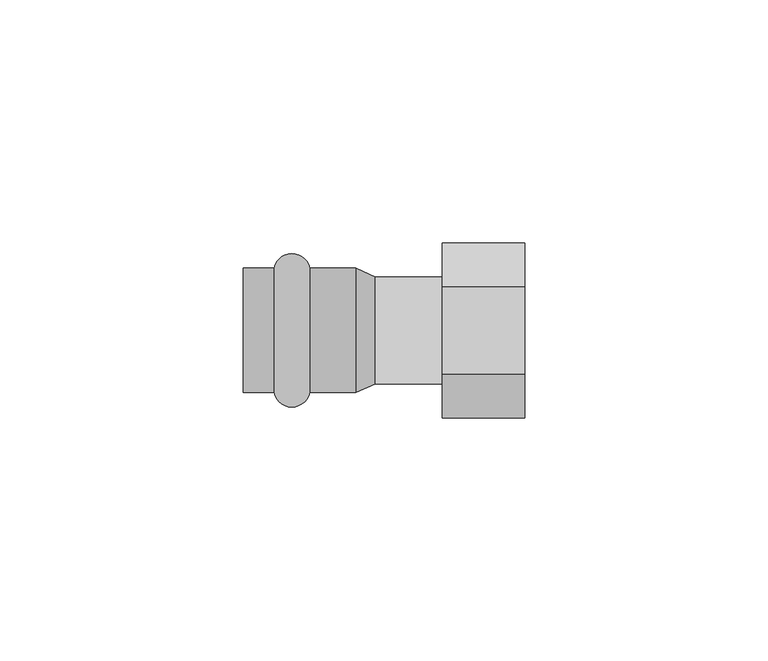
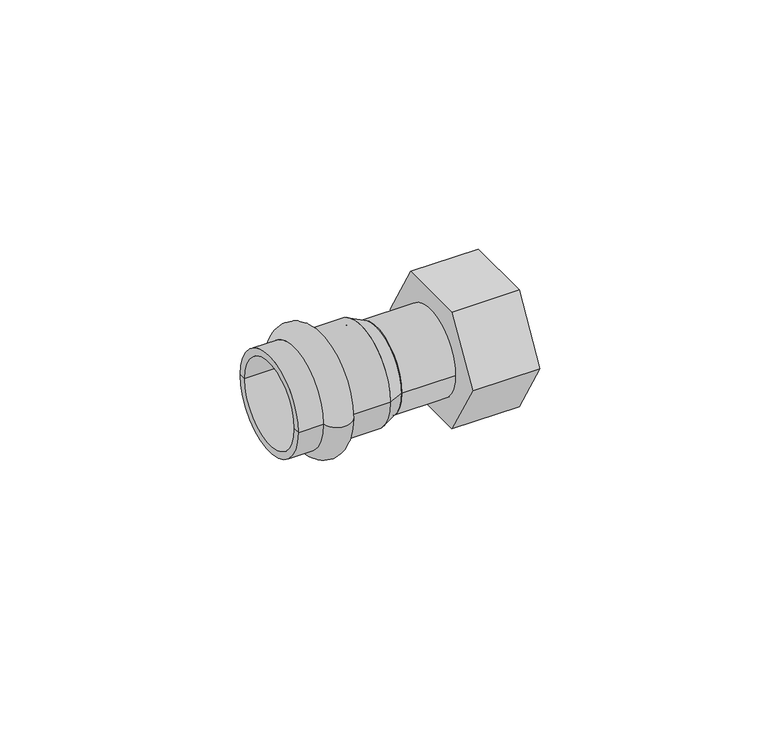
"""IFC4 building model written with IfcOpenShell, lengths in millimetres: pipe fitting geometry, VALTEC_VTi.908.I_Соединитель с накидной гайкой_Нержавеющая сталь : VTi.908.I."""

from ifc_helpers import new_model, si_unit, point, frame, origin, origin_2d, place, context, project, spatial, polyline, circle_curve, ellipse_curve, trimmed, segment, composite_curve, outline, extrude, source, transform, mapped, element, save
from ifc_brep_helpers import plane_surface, cylinder_surface, revolved_surface, advanced_brep


def pipe_fitting_6fb5fd90(model_context):
    return source(origin(), model_context, "Body", "SolidModel", [
        advanced_brep(
        [(-43.1242346, -12.8, 0.0), (-43.1242346, 12.8, 0.0), (-35.7757654, 12.8, 0.0), (-35.7757654, -12.8, 0.0), (-49.5, -12.8, 0.0), (-49.5, 12.8, 0.0), (-49.5, -11.0, 0.0), (-49.5, 11.0, 0.0), (-26.3, -11.0, 0.0), (-26.3, 11.0, 0.0), (-26.3, -12.8, 0.0), (-26.3, 12.8, 0.0)],
        [
            (0, 1, circle_curve(frame((-43.1242346, 0.0, 0.0), z_axis=(1.0, 0.0, 0.0), x_axis=(0.0, 1.0, 0.0)), 12.8)),
            (1, 2, circle_curve(frame((-39.45, 12.05, 0.0), z_axis=(0.0, 0.0, -1.0), x_axis=(1.0, 0.0, 0.0)), 3.75)),
            (2, 3, circle_curve(frame((-35.7757654, 0.0, 0.0), z_axis=(-1.0, 0.0, 0.0), x_axis=(0.0, 1.0, 0.0)), 12.8)),
            (3, 0, circle_curve(frame((-39.45, -12.05, 0.0), z_axis=(0.0, 0.0, -1.0), x_axis=(1.0, 0.0, 0.0)), 3.75)),
            (1, 0, circle_curve(frame((-43.1242346, 0.0, 0.0), z_axis=(1.0, 0.0, 0.0), x_axis=(0.0, 1.0, 0.0)), 12.8)),
            (3, 2, circle_curve(frame((-35.7757654, 0.0, 0.0), z_axis=(-1.0, 0.0, 0.0), x_axis=(0.0, 1.0, 0.0)), 12.8)),
            (4, 5, circle_curve(frame((-49.5, 0.0, 0.0), z_axis=(1.0, 0.0, 0.0), x_axis=(0.0, 1.0, 0.0)), 12.8)),
            (5, 1),
            (0, 4),
            (5, 4, circle_curve(frame((-49.5, 0.0, 0.0), z_axis=(1.0, 0.0, 0.0), x_axis=(0.0, 1.0, 0.0)), 12.8)),
            (6, 7, circle_curve(frame((-49.5, 0.0, 0.0), z_axis=(1.0, 0.0, 0.0), x_axis=(0.0, 1.0, 0.0)), 11.0)),
            (7, 5),
            (4, 6),
            (7, 6, circle_curve(frame((-49.5, 0.0, 0.0), z_axis=(1.0, 0.0, 0.0), x_axis=(0.0, 1.0, 0.0)), 11.0)),
            (8, 9, circle_curve(frame((-26.3, 0.0, 0.0), z_axis=(1.0, 0.0, 0.0), x_axis=(0.0, 1.0, 0.0)), 11.0)),
            (9, 7),
            (6, 8),
            (9, 8, circle_curve(frame((-26.3, 0.0, 0.0), z_axis=(1.0, 0.0, 0.0), x_axis=(0.0, 1.0, 0.0)), 11.0)),
            (10, 11, circle_curve(frame((-26.3, 0.0, 0.0), z_axis=(1.0, 0.0, 0.0), x_axis=(0.0, 1.0, 0.0)), 12.8)),
            (11, 9),
            (8, 10),
            (11, 10, circle_curve(frame((-26.3, 0.0, 0.0), z_axis=(1.0, 0.0, 0.0), x_axis=(0.0, 1.0, 0.0)), 12.8)),
            (2, 11),
            (10, 3),
        ],
        [
            revolved_surface(trimmed(ellipse_curve(frame((-39.45, 12.05, 0.0), z_axis=(0.0, 0.0, 1.0), x_axis=(1.0, 0.0, 0.0)), 3.75, 3.75), [point((-35.7757654, 12.8, 0.0))], [point((-43.1242346, 12.8, 0.0))], True, "CARTESIAN"), (-53.0364426, 0.0, 0.0), (-1.0, 0.0, 0.0)),
            cylinder_surface(frame((-53.0364426, 0.0, 0.0), z_axis=(-1.0, 0.0, 0.0), x_axis=(0.0, 1.0, 0.0)), 12.8),
            plane_surface(frame((-49.5, 0.0, 0.0), z_axis=(-1.0, 0.0, 0.0), x_axis=(0.0, 1.0, 0.0))),
            revolved_surface(polyline([(-49.5, 11.0, 0.0), (-26.3, 11.0, 0.0)]), (-53.0364426, 0.0, 0.0), (-1.0, 0.0, 0.0)),
            plane_surface(frame((-26.3, 0.0, 0.0), z_axis=(1.0, 0.0, 0.0), x_axis=(0.0, 1.0, 0.0))),
        ],
        [
            (0, [[1, 2, 3, 4]]),
            (0, [[5, -4, 6, -2]]),
            (1, [[7, 8, -1, 9]]),
            (1, [[10, -9, -5, -8]]),
            (2, [[11, 12, -7, 13]]),
            (2, [[14, -13, -10, -12]]),
            (3, [[15, 16, -11, 17]]),
            (3, [[18, -17, -14, -16]]),
            (4, [[19, 20, -15, 21]]),
            (4, [[22, -21, -18, -20]]),
            (1, [[-3, 23, -19, 24]]),
            (1, [[-6, -24, -22, -23]]),
        ],
    ),
        extrude(outline(polyline([(-18.0017814, 0.0), (-9.0008907, 15.59), (9.0008907, 15.59), (18.0017814, 0.0), (9.0008907, -15.59), (-9.0008907, -15.59), (-18.0017814, 0.0)])), frame((-8.5, 0.0, 0.0), z_axis=(1.0, 0.0, 0.0), x_axis=(0.0, 1.0, 0.0)), (0.0, 0.0, 1.0), 17.0),
        extrude(outline(composite_curve([segment(trimmed(circle_curve(origin_2d(), 11.0), [point((-11.0, 0.0))], [point((11.0, 0.0))], False, "CARTESIAN"), True, "CONTINUOUS"), segment(trimmed(circle_curve(origin_2d(), 11.0), [point((11.0, 0.0))], [point((-11.0, 0.0))], False, "CARTESIAN"), True, "CONTINUOUS")], self_intersect=False)), frame((-22.3, 0.0, 0.0), z_axis=(1.0, 0.0, 0.0), x_axis=(0.0, 1.0, 0.0)), (0.0, 0.0, 1.0), 13.8),
        advanced_brep(
        [(-22.3, -11.0, 0.0), (-22.3, 11.0, 0.0), (-26.3, -12.8, 0.0), (-26.3, 12.8, 0.0)],
        [
            (0, 1, circle_curve(frame((-22.3, 0.0, 0.0), z_axis=(1.0, 0.0, 0.0), x_axis=(0.0, -1.0, 0.0)), 11.0)),
            (1, 0, circle_curve(frame((-22.3, 0.0, 0.0), z_axis=(1.0, 0.0, 0.0), x_axis=(0.0, 1.0, 0.0)), 11.0)),
            (2, 3, circle_curve(frame((-26.3, 0.0, 0.0), z_axis=(-1.0, 0.0, 0.0), x_axis=(0.0, 1.0, 0.0)), 12.8)),
            (3, 2, circle_curve(frame((-26.3, 0.0, 0.0), z_axis=(-1.0, 0.0, 0.0), x_axis=(0.0, -1.0, 0.0)), 12.8)),
            (3, 1),
            (0, 2),
        ],
        [
            plane_surface(frame((-22.3, 0.0, 0.0), z_axis=(1.0, 0.0, 0.0), x_axis=(0.0, 0.0, -1.0))),
            plane_surface(frame((-26.3, 0.0, 0.0), z_axis=(-1.0, 0.0, 0.0), x_axis=(0.0, 0.0, -1.0))),
            revolved_surface(polyline([(-22.3, -10.999999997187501, 0.0), (-26.3, -12.8, 0.0)]), (2.1444444, 0.0, 0.0), (-1.0, 0.0, 0.0)),
            revolved_surface(polyline([(-22.3, 10.999999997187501, 0.0), (-26.3, 12.8, 0.0)]), (2.1444444, 0.0, 0.0), (-1.0, 0.0, 0.0)),
        ],
        [
            (0, [[1, 2]]),
            (1, [[3, 4]]),
            (2, [[-4, 5, -1, 6]]),
            (3, [[-3, -6, -2, -5]]),
        ],
    ),
    ])


if __name__ == "__main__":
    model = new_model("IFC4")
    model_context = context("Model", 3, world=origin())
    ifc_project = project(units=[si_unit("LENGTHUNIT", "METRE", prefix="MILLI")], contexts=[model_context])
    site = spatial("IfcSite", under=ifc_project)
    building = spatial("IfcBuilding", under=site)
    placement = place(None, origin())
    pipe_fitting_shape = pipe_fitting_6fb5fd90(model_context)
    element("IfcPipeFitting", 1, ObjectType="VALTEC_VTi.908.I_Соединитель с накидной гайкой_Нержавеющая сталь : VTi.908.I", at=placement, inside=building, context=model_context, shape_type="MappedRepresentation", body=[
        mapped(pipe_fitting_shape, transform((0.0, 0.0, 0.0), x_axis=(1.0, 0.0, 0.0), y_axis=(0.0, 1.0, 0.0), z_axis=(0.0, 0.0, 1.0))),
    ])
    save(model, "model.ifc")
